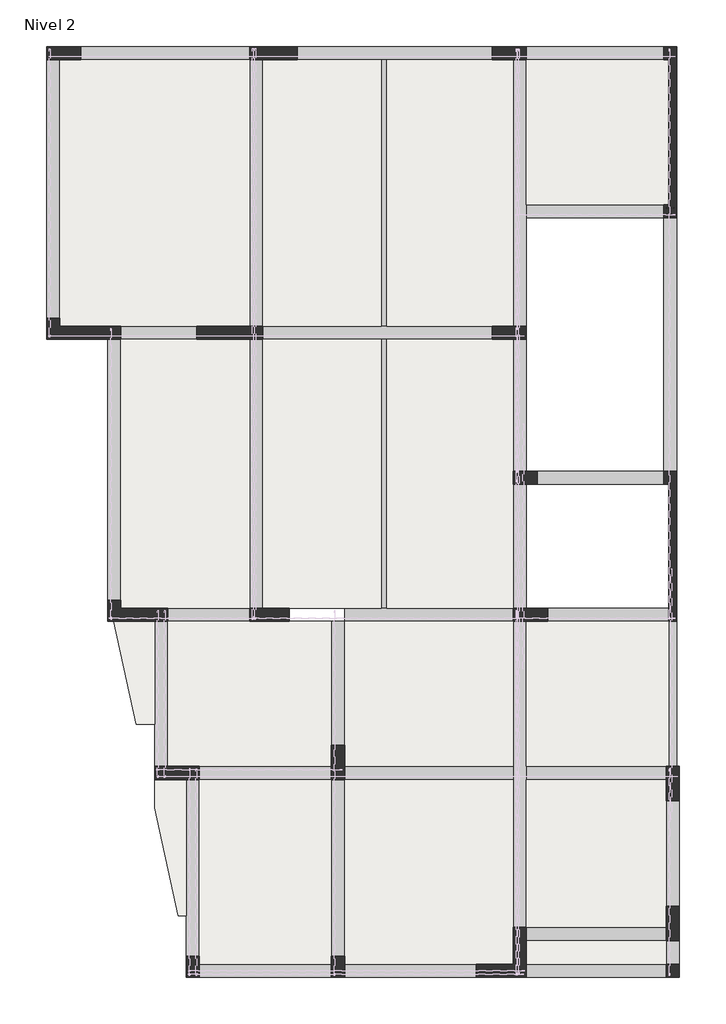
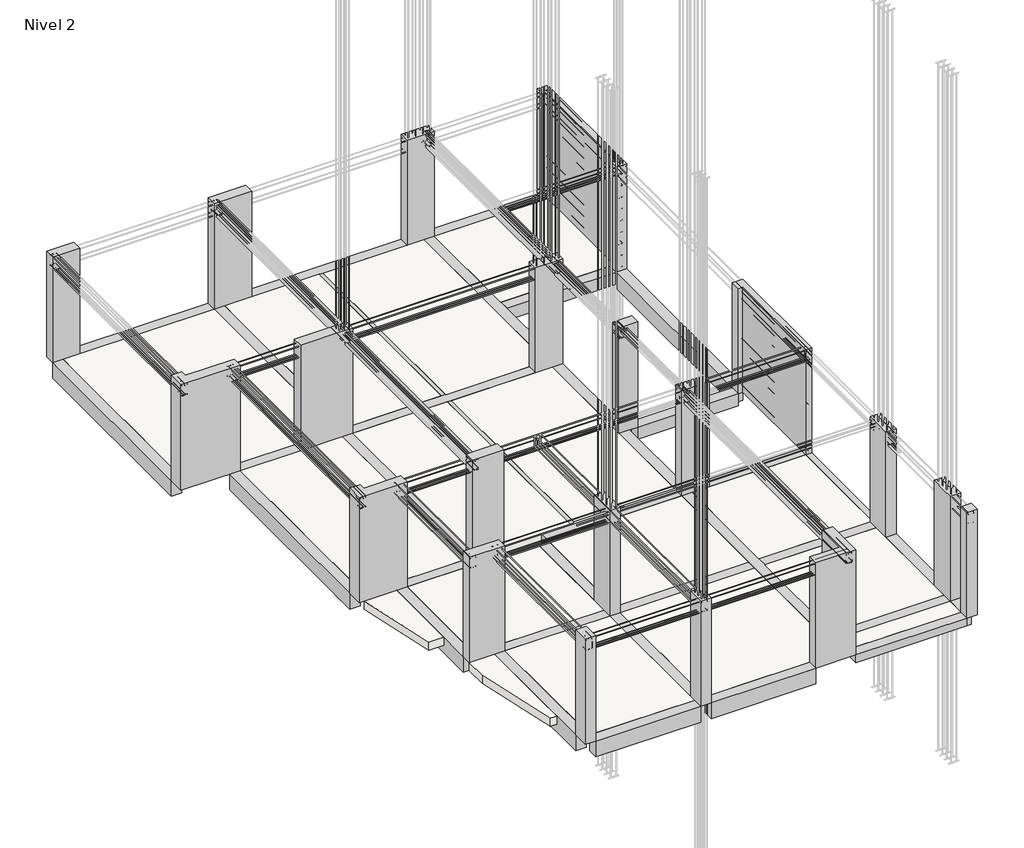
# One storey, part 1 of 4: 35 beams, 20 columns, 16 slabs.
"""IFC4 building model written with IfcOpenShell, lengths in millimetres."""

from ifc_helpers import new_model, si_unit, frame, origin, place, context, project, spatial, polyline, outline, extrude, faceted_brep, transform, mapped, element, save
from components import viga_rectangular_evg_rect_10x20cm_33a10ffb, viga_rectangular_evg_rect_10x20cm_1bd2aa7d, viga_rectangular_evg_rect_15x40_cm_c549a8b6, viga_rectangular_evg_rect_25x20_cm_6cef108b, viga_rectangular_evg_rect_25x20_cm_76eb4939, viga_rectangular_evg_rect_25x20_cm_9c3e1b78, viga_rectangular_evg_rect_25x30cm_620da6b6, viga_rectangular_evg_rect_25x30cm_a66d10a6, viga_rectangular_evg_rect_25x40_cm_2bdd148a, viga_rectangular_evg_rect_25x40_cm_41408228, viga_rectangular_evg_rect_25x40_cm_6a1f8600, viga_rectangular_evg_rect_25x40_cm_fbb3c78d, viga_rectangular_evg_rect_25x40_cm_da4bb42e, viga_rectangular_evg_rect_25x40_cm_3ab7e52c, viga_rectangular_evg_rect_25x40_cm_830f614a, viga_rectangular_evg_rect_25x40_cm_90d5ee12, viga_rectangular_evg_rect_25x40_cm_d11aaed7, viga_rectangular_evg_rect_25x40_cm_ec8e30a6, viga_rectangular_evg_rect_25x40_cm_c621c72f, viga_rectangular_evg_rect_25x40_cm_b76ac871, viga_rectangular_evg_rect_25x40_cm_a2aa706d, viga_rectangular_evg_rect_25x40_cm_42ceb3dc, viga_rectangular_evg_rect_25x40_cm_400539a3, viga_rectangular_evg_rect_25x40_cm_b1d61e0d, viga_rectangular_evg_rect_25x40_cm_961303b6, viga_rectangular_evg_rect_25x40_cm_5bf8f6ca, viga_rectangular_evg_rect_25x40_cm_85cacfee, viga_rectangular_evg_rect_25x40_cm_e96bc27a, viga_rectangular_evg_rect_25x40_cm_8e48b35e, viga_rectangular_evg_rect_25x40_cm_19945e5e, viga_rectangular_evg_rect_25x40_cm_85c841cc, column_7b9fd71a, column_7de82d65, column_a5854c5e, column_dfa84617, columna_estructural_rectangular_eco_rect_25x25_cm_52335a65, columna_estructural_u_eco_u_25x325x25x15_0e073354

model = new_model("IFC4")

# Units and contexts
model_context = context("Model", 3, world=origin())
ifc_project = project(units=[si_unit("LENGTHUNIT", "METRE", prefix="MILLI")], contexts=[model_context])

# Site, building, storey
site = spatial("IfcSite", under=ifc_project)
building = spatial("IfcBuilding", under=site)
storey = spatial("IfcBuildingStorey", under=building, Name="Nivel 2", Elevation=2750.0)

# Beams
placement = place(None, origin())
viga_rectangular_evg_rect_10x20cm_shape = viga_rectangular_evg_rect_10x20cm_33a10ffb(model_context)
element("IfcBeam", 1, ObjectType="Viga Rectangular : EVG_Rect 10x20cm", at=placement, inside=storey, context=model_context, shape_type="MappedRepresentation", body=[
    mapped(viga_rectangular_evg_rect_10x20cm_shape, transform((3750.0, 9550.0, 2750.0), x_axis=(0.0, 1.0, 0.0), y_axis=(-1.0, 0.0, 0.0), z_axis=(0.0, 0.0, 1.0))),
])
viga_rectangular_evg_rect_10x20cm_2_shape = viga_rectangular_evg_rect_10x20cm_1bd2aa7d(model_context)
element("IfcBeam", 2, ObjectType="Viga Rectangular : EVG_Rect 10x20cm", at=placement, inside=storey, context=model_context, shape_type="MappedRepresentation", body=[
    mapped(viga_rectangular_evg_rect_10x20cm_2_shape, transform((3750.0, 14875.0, 2750.0), x_axis=(0.0, 1.0, 0.0), y_axis=(-1.0, 0.0, 0.0), z_axis=(0.0, 0.0, 1.0))),
])
viga_rectangular_evg_rect_15x40_cm_shape = viga_rectangular_evg_rect_15x40_cm_c549a8b6(model_context)
element("IfcBeam", 3, ObjectType="Viga Rectangular : EVG_Rect 15x40 cm", at=placement, inside=storey, context=model_context, shape_type="MappedRepresentation", body=[
    mapped(viga_rectangular_evg_rect_15x40_cm_shape, transform((9225.0, 5375.0, 2750.0), x_axis=(0.0, -1.0, 0.0), y_axis=(1.0, 0.0, 0.0), z_axis=(0.0, 0.0, 1.0))),
])
viga_rectangular_evg_rect_25x20_cm_shape = viga_rectangular_evg_rect_25x20_cm_6cef108b(model_context)
element("IfcBeam", 4, ObjectType="Viga Rectangular : EVG_Rect 25x20 cm", at=placement, inside=storey, context=model_context, shape_type="MappedRepresentation", body=[
    mapped(viga_rectangular_evg_rect_25x20_cm_shape, transform((6325.0, 8175.0, 2750.0), x_axis=(0.0, 1.0, 0.0), y_axis=(-1.0, 0.0, 0.0), z_axis=(0.0, 0.0, 1.0))),
])
viga_rectangular_evg_rect_25x20_cm_2_shape = viga_rectangular_evg_rect_25x20_cm_76eb4939(model_context)
element("IfcBeam", 5, ObjectType="Viga Rectangular : EVG_Rect 25x20 cm", at=placement, inside=storey, context=model_context, shape_type="MappedRepresentation", body=[
    mapped(viga_rectangular_evg_rect_25x20_cm_2_shape, transform((4600.0, 3875.0, 2750.0), x_axis=(1.0, 0.0, 0.0), y_axis=(0.0, 1.0, 0.0), z_axis=(0.0, 0.0, 1.0))),
])
viga_rectangular_evg_rect_25x20_cm_3_shape = viga_rectangular_evg_rect_25x20_cm_9c3e1b78(model_context)
element("IfcBeam", 6, ObjectType="Viga Rectangular : EVG_Rect 25x20 cm", at=placement, inside=storey, context=model_context, shape_type="MappedRepresentation", body=[
    mapped(viga_rectangular_evg_rect_25x20_cm_3_shape, transform((7775.0, 3875.0, 2750.0), x_axis=(1.0, 0.0, 0.0), y_axis=(0.0, 1.0, 0.0), z_axis=(0.0, 0.0, 1.0))),
])
element("IfcBeam", 7, ObjectType="Viga Rectangular : EVG_Rect 25x20 cm", at=placement, inside=storey, context=model_context, shape_type="MappedRepresentation", body=[
    mapped(viga_rectangular_evg_rect_25x20_cm_3_shape, transform((7775.0, 825.0, 2750.0), x_axis=(-1.0, 0.0, 0.0), y_axis=(0.0, -1.0, 0.0), z_axis=(0.0, 0.0, 1.0))),
])
element("IfcBeam", 8, ObjectType="Viga Rectangular : EVG_Rect 25x20 cm", at=placement, inside=storey, context=model_context, shape_type="MappedRepresentation", body=[
    mapped(viga_rectangular_evg_rect_25x20_cm_3_shape, transform((7775.0, 125.0, 2750.0), x_axis=(-1.0, 0.0, 0.0), y_axis=(0.0, -1.0, 0.0), z_axis=(0.0, 0.0, 1.0))),
])
viga_rectangular_evg_rect_25x30cm_shape = viga_rectangular_evg_rect_25x30cm_620da6b6(model_context)
element("IfcBeam", 9, ObjectType="Viga Rectangular : EVG_Rect 25x30cm", at=placement, inside=storey, context=model_context, shape_type="MappedRepresentation", body=[
    mapped(viga_rectangular_evg_rect_25x30cm_shape, transform((7800.0, 9475.0, 2750.0), x_axis=(1.0, 0.0, 0.0), y_axis=(0.0, 1.0, 0.0), z_axis=(0.0, 0.0, 1.0))),
])
viga_rectangular_evg_rect_25x30cm_2_shape = viga_rectangular_evg_rect_25x30cm_a66d10a6(model_context)
element("IfcBeam", 10, ObjectType="Viga Rectangular : EVG_Rect 25x30cm", at=placement, inside=storey, context=model_context, shape_type="MappedRepresentation", body=[
    mapped(viga_rectangular_evg_rect_25x30cm_2_shape, transform((7750.0, 14525.0, 2750.0), x_axis=(-1.0, 0.0, 0.0), y_axis=(0.0, -1.0, 0.0), z_axis=(0.0, 0.0, 1.0))),
])
viga_rectangular_evg_rect_25x40_cm_shape = viga_rectangular_evg_rect_25x40_cm_2bdd148a(model_context)
element("IfcBeam", 11, ObjectType="Viga Rectangular : EVG_Rect 25x40 cm", at=placement, inside=storey, context=model_context, shape_type="MappedRepresentation", body=[
    mapped(viga_rectangular_evg_rect_25x40_cm_shape, transform((6325.0, 3675.0, 2750.0), x_axis=(0.0, 1.0, 0.0), y_axis=(-1.0, 0.0, 0.0), z_axis=(0.0, 0.0, 1.0))),
])
viga_rectangular_evg_rect_25x40_cm_2_shape = viga_rectangular_evg_rect_25x40_cm_41408228(model_context)
element("IfcBeam", 12, ObjectType="Viga Rectangular : EVG_Rect 25x40 cm", at=placement, inside=storey, context=model_context, shape_type="MappedRepresentation", body=[
    mapped(viga_rectangular_evg_rect_25x40_cm_2_shape, transform((3425.0, 12225.0, 2750.0), x_axis=(-1.0, 0.0, 0.0), y_axis=(0.0, -1.0, 0.0), z_axis=(0.0, 0.0, 1.0))),
])
viga_rectangular_evg_rect_25x40_cm_3_shape = viga_rectangular_evg_rect_25x40_cm_6a1f8600(model_context)
element("IfcBeam", 13, ObjectType="Viga Rectangular : EVG_Rect 25x40 cm", at=placement, inside=storey, context=model_context, shape_type="MappedRepresentation", body=[
    mapped(viga_rectangular_evg_rect_25x40_cm_3_shape, transform((-560.0, 12225.0, 2750.0), x_axis=(1.0, 0.0, 0.0), y_axis=(0.0, 1.0, 0.0), z_axis=(0.0, 0.0, 1.0))),
])
viga_rectangular_evg_rect_25x40_cm_4_shape = viga_rectangular_evg_rect_25x40_cm_fbb3c78d(model_context)
element("IfcBeam", 14, ObjectType="Viga Rectangular : EVG_Rect 25x40 cm", at=placement, inside=storey, context=model_context, shape_type="MappedRepresentation", body=[
    mapped(viga_rectangular_evg_rect_25x40_cm_4_shape, transform((-337.5, 17525.0, 2750.0), x_axis=(1.0, 0.0, 0.0), y_axis=(0.0, 1.0, 0.0), z_axis=(0.0, 0.0, 1.0))),
])
viga_rectangular_evg_rect_25x40_cm_5_shape = viga_rectangular_evg_rect_25x40_cm_da4bb42e(model_context)
element("IfcBeam", 15, ObjectType="Viga Rectangular : EVG_Rect 25x40 cm", at=placement, inside=storey, context=model_context, shape_type="MappedRepresentation", body=[
    mapped(viga_rectangular_evg_rect_25x40_cm_5_shape, transform((3887.5, 17525.0, 2750.0), x_axis=(1.0, 0.0, 0.0), y_axis=(0.0, 1.0, 0.0), z_axis=(0.0, 0.0, 1.0))),
])
viga_rectangular_evg_rect_25x40_cm_6_shape = viga_rectangular_evg_rect_25x40_cm_3ab7e52c(model_context)
element("IfcBeam", 16, ObjectType="Viga Rectangular : EVG_Rect 25x40 cm", at=placement, inside=storey, context=model_context, shape_type="MappedRepresentation", body=[
    mapped(viga_rectangular_evg_rect_25x40_cm_6_shape, transform((590.0, 6875.0, 2750.0), x_axis=(1.0, 0.0, 0.0), y_axis=(0.0, 1.0, 0.0), z_axis=(0.0, 0.0, 1.0))),
])
viga_rectangular_evg_rect_25x40_cm_7_shape = viga_rectangular_evg_rect_25x40_cm_830f614a(model_context)
element("IfcBeam", 17, ObjectType="Viga Rectangular : EVG_Rect 25x40 cm", at=placement, inside=storey, context=model_context, shape_type="MappedRepresentation", body=[
    mapped(viga_rectangular_evg_rect_25x40_cm_7_shape, transform((4312.5, 6875.0, 2750.0), x_axis=(-1.0, 0.0, 0.0), y_axis=(0.0, -1.0, 0.0), z_axis=(0.0, 0.0, 1.0))),
])
viga_rectangular_evg_rect_25x40_cm_8_shape = viga_rectangular_evg_rect_25x40_cm_90d5ee12(model_context)
element("IfcBeam", 18, ObjectType="Viga Rectangular : EVG_Rect 25x40 cm", at=placement, inside=storey, context=model_context, shape_type="MappedRepresentation", body=[
    mapped(viga_rectangular_evg_rect_25x40_cm_8_shape, transform((1350.0, 3875.0, 2750.0), x_axis=(1.0, 0.0, 0.0), y_axis=(0.0, 1.0, 0.0), z_axis=(0.0, 0.0, 1.0))),
])
viga_rectangular_evg_rect_25x40_cm_9_shape = viga_rectangular_evg_rect_25x40_cm_d11aaed7(model_context)
element("IfcBeam", 19, ObjectType="Viga Rectangular : EVG_Rect 25x40 cm", at=placement, inside=storey, context=model_context, shape_type="MappedRepresentation", body=[
    mapped(viga_rectangular_evg_rect_25x40_cm_9_shape, transform((1500.0, 125.0, 2750.0), x_axis=(-1.0, 0.0, 0.0), y_axis=(0.0, -1.0, 0.0), z_axis=(0.0, 0.0, 1.0))),
])
element("IfcBeam", 20, ObjectType="Viga Rectangular : EVG_Rect 25x40 cm", at=placement, inside=storey, context=model_context, shape_type="MappedRepresentation", body=[
    mapped(viga_rectangular_evg_rect_25x40_cm_9_shape, transform((6325.0, 10850.0, 2750.0), x_axis=(0.0, 1.0, 0.0), y_axis=(-1.0, 0.0, 0.0), z_axis=(0.0, 0.0, 1.0))),
])
viga_rectangular_evg_rect_25x40_cm_10_shape = viga_rectangular_evg_rect_25x40_cm_ec8e30a6(model_context)
element("IfcBeam", 21, ObjectType="Viga Rectangular : EVG_Rect 25x40 cm", at=placement, inside=storey, context=model_context, shape_type="MappedRepresentation", body=[
    mapped(viga_rectangular_evg_rect_25x40_cm_10_shape, transform((4600.0, 125.0, 2750.0), x_axis=(1.0, 0.0, 0.0), y_axis=(0.0, 1.0, 0.0), z_axis=(0.0, 0.0, 1.0))),
])
viga_rectangular_evg_rect_25x40_cm_11_shape = viga_rectangular_evg_rect_25x40_cm_c621c72f(model_context)
element("IfcBeam", 22, ObjectType="Viga Rectangular : EVG_Rect 25x40 cm", at=placement, inside=storey, context=model_context, shape_type="MappedRepresentation", body=[
    mapped(viga_rectangular_evg_rect_25x40_cm_11_shape, transform((125.0, 2037.5, 2750.0), x_axis=(0.0, 1.0, 0.0), y_axis=(-1.0, 0.0, 0.0), z_axis=(0.0, 0.0, 1.0))),
])
viga_rectangular_evg_rect_25x40_cm_12_shape = viga_rectangular_evg_rect_25x40_cm_b76ac871(model_context)
element("IfcBeam", 23, ObjectType="Viga Rectangular : EVG_Rect 25x40 cm", at=placement, inside=storey, context=model_context, shape_type="MappedRepresentation", body=[
    mapped(viga_rectangular_evg_rect_25x40_cm_12_shape, transform((2875.0, 2137.5, 2750.0), x_axis=(0.0, 1.0, 0.0), y_axis=(-1.0, 0.0, 0.0), z_axis=(0.0, 0.0, 1.0))),
])
viga_rectangular_evg_rect_25x40_cm_13_shape = viga_rectangular_evg_rect_25x40_cm_a2aa706d(model_context)
element("IfcBeam", 24, ObjectType="Viga Rectangular : EVG_Rect 25x40 cm", at=placement, inside=storey, context=model_context, shape_type="MappedRepresentation", body=[
    mapped(viga_rectangular_evg_rect_25x40_cm_13_shape, transform((2875.0, 5475.0, 2750.0), x_axis=(0.0, 1.0, 0.0), y_axis=(-1.0, 0.0, 0.0), z_axis=(0.0, 0.0, 1.0))),
])
viga_rectangular_evg_rect_25x40_cm_14_shape = viga_rectangular_evg_rect_25x40_cm_42ceb3dc(model_context)
element("IfcBeam", 25, ObjectType="Viga Rectangular : EVG_Rect 25x40 cm", at=placement, inside=storey, context=model_context, shape_type="MappedRepresentation", body=[
    mapped(viga_rectangular_evg_rect_25x40_cm_14_shape, transform((-475.0, 5375.0, 2750.0), x_axis=(0.0, 1.0, 0.0), y_axis=(-1.0, 0.0, 0.0), z_axis=(0.0, 0.0, 1.0))),
])
viga_rectangular_evg_rect_25x40_cm_15_shape = viga_rectangular_evg_rect_25x40_cm_400539a3(model_context)
element("IfcBeam", 26, ObjectType="Viga Rectangular : EVG_Rect 25x40 cm", at=placement, inside=storey, context=model_context, shape_type="MappedRepresentation", body=[
    mapped(viga_rectangular_evg_rect_25x40_cm_15_shape, transform((9225.0, 575.0, 2750.0), x_axis=(0.0, 1.0, 0.0), y_axis=(-1.0, 0.0, 0.0), z_axis=(0.0, 0.0, 1.0))),
])
viga_rectangular_evg_rect_25x40_cm_16_shape = viga_rectangular_evg_rect_25x40_cm_b1d61e0d(model_context)
element("IfcBeam", 27, ObjectType="Viga Rectangular : EVG_Rect 25x40 cm", at=placement, inside=storey, context=model_context, shape_type="MappedRepresentation", body=[
    mapped(viga_rectangular_evg_rect_25x40_cm_16_shape, transform((9225.0, 2350.0, 2750.0), x_axis=(0.0, 1.0, 0.0), y_axis=(-1.0, 0.0, 0.0), z_axis=(0.0, 0.0, 1.0))),
])
viga_rectangular_evg_rect_25x40_cm_17_shape = viga_rectangular_evg_rect_25x40_cm_961303b6(model_context)
element("IfcBeam", 28, ObjectType="Viga Rectangular : EVG_Rect 25x40 cm", at=placement, inside=storey, context=model_context, shape_type="MappedRepresentation", body=[
    mapped(viga_rectangular_evg_rect_25x40_cm_17_shape, transform((7875.0, 6875.0, 2750.0), x_axis=(1.0, 0.0, 0.0), y_axis=(0.0, 1.0, 0.0), z_axis=(0.0, 0.0, 1.0))),
])
viga_rectangular_evg_rect_25x40_cm_18_shape = viga_rectangular_evg_rect_25x40_cm_5bf8f6ca(model_context)
element("IfcBeam", 29, ObjectType="Viga Rectangular : EVG_Rect 25x40 cm", at=placement, inside=storey, context=model_context, shape_type="MappedRepresentation", body=[
    mapped(viga_rectangular_evg_rect_25x40_cm_18_shape, transform((-1365.0, 9587.5, 2750.0), x_axis=(0.0, 1.0, 0.0), y_axis=(-1.0, 0.0, 0.0), z_axis=(0.0, 0.0, 1.0))),
])
viga_rectangular_evg_rect_25x40_cm_19_shape = viga_rectangular_evg_rect_25x40_cm_85cacfee(model_context)
element("IfcBeam", 30, ObjectType="Viga Rectangular : EVG_Rect 25x40 cm", at=placement, inside=storey, context=model_context, shape_type="MappedRepresentation", body=[
    mapped(viga_rectangular_evg_rect_25x40_cm_19_shape, transform((1325.0, 9550.0, 2750.0), x_axis=(0.0, 1.0, 0.0), y_axis=(-1.0, 0.0, 0.0), z_axis=(0.0, 0.0, 1.0))),
])
viga_rectangular_evg_rect_25x40_cm_20_shape = viga_rectangular_evg_rect_25x40_cm_e96bc27a(model_context)
element("IfcBeam", 31, ObjectType="Viga Rectangular : EVG_Rect 25x40 cm", at=placement, inside=storey, context=model_context, shape_type="MappedRepresentation", body=[
    mapped(viga_rectangular_evg_rect_25x40_cm_20_shape, transform((9175.0, 11985.0, 2750.0), x_axis=(0.0, 1.0, 0.0), y_axis=(-1.0, 0.0, 0.0), z_axis=(0.0, 0.0, 1.0))),
])
viga_rectangular_evg_rect_25x40_cm_21_shape = viga_rectangular_evg_rect_25x40_cm_8e48b35e(model_context)
element("IfcBeam", 32, ObjectType="Viga Rectangular : EVG_Rect 25x40 cm", at=placement, inside=storey, context=model_context, shape_type="MappedRepresentation", body=[
    mapped(viga_rectangular_evg_rect_25x40_cm_21_shape, transform((6325.0, 14875.0, 2750.0), x_axis=(0.0, 1.0, 0.0), y_axis=(-1.0, 0.0, 0.0), z_axis=(0.0, 0.0, 1.0))),
])
element("IfcBeam", 33, ObjectType="Viga Rectangular : EVG_Rect 25x40 cm", at=placement, inside=storey, context=model_context, shape_type="MappedRepresentation", body=[
    mapped(viga_rectangular_evg_rect_25x40_cm_21_shape, transform((1325.0, 14875.0, 2750.0), x_axis=(0.0, 1.0, 0.0), y_axis=(-1.0, 0.0, 0.0), z_axis=(0.0, 0.0, 1.0))),
])
viga_rectangular_evg_rect_25x40_cm_22_shape = viga_rectangular_evg_rect_25x40_cm_19945e5e(model_context)
element("IfcBeam", 34, ObjectType="Viga Rectangular : EVG_Rect 25x40 cm", at=placement, inside=storey, context=model_context, shape_type="MappedRepresentation", body=[
    mapped(viga_rectangular_evg_rect_25x40_cm_22_shape, transform((-2525.0, 14912.5, 2750.0), x_axis=(0.0, 1.0, 0.0), y_axis=(-1.0, 0.0, 0.0), z_axis=(0.0, 0.0, 1.0))),
])
viga_rectangular_evg_rect_25x40_cm_23_shape = viga_rectangular_evg_rect_25x40_cm_85c841cc(model_context)
element("IfcBeam", 35, ObjectType="Viga Rectangular : EVG_Rect 25x40 cm", at=placement, inside=storey, context=model_context, shape_type="MappedRepresentation", body=[
    mapped(viga_rectangular_evg_rect_25x40_cm_23_shape, transform((7675.0, 17525.0, 2750.0), x_axis=(1.0, 0.0, 0.0), y_axis=(0.0, 1.0, 0.0), z_axis=(0.0, 0.0, 1.0))),
])

# Columns
column_shape = column_7b9fd71a(model_context)
element("IfcColumn", 36, ObjectType="Columna Estructural Ele : ECO_Ele 40x141x25", at=placement, inside=storey, context=model_context, shape_type="MappedRepresentation", body=[
    mapped(column_shape, transform((-2525.0, 12225.0, 0.0), x_axis=(1.0, 0.0, 0.0), y_axis=(0.0, 1.0, 0.0), z_axis=(0.0, 0.0, 1.0))),
])
column_2_shape = column_7de82d65(model_context)
element("IfcColumn", 37, ObjectType="Columna Estructural Ele : ECO_Ele 40x114x25", at=placement, inside=storey, context=model_context, shape_type="MappedRepresentation", body=[
    mapped(column_2_shape, transform((-1365.0, 6875.0, 0.0), x_axis=(1.0, 0.0, 0.0), y_axis=(0.0, 1.0, 0.0), z_axis=(0.0, 0.0, 1.0))),
])
column_3_shape = column_a5854c5e(model_context)
element("IfcColumn", 38, ObjectType="Columna Estructural Ele : ECO_Ele 25x285x25", at=placement, inside=storey, context=model_context, shape_type="MappedRepresentation", body=[
    mapped(column_3_shape, transform((9225.0, 9475.0, 0.0), x_axis=(0.0, -1.0, 0.0), y_axis=(1.0, 0.0, 0.0), z_axis=(0.0, 0.0, 1.0))),
])
column_4_shape = column_dfa84617(model_context)
element("IfcColumn", 39, ObjectType="Columna Estructural Ele : ECO_Ele 95x95x25", at=placement, inside=storey, context=model_context, shape_type="MappedRepresentation", body=[
    mapped(column_4_shape, transform((6325.0, 125.0, 0.0), x_axis=(0.0, 1.0, 0.0), y_axis=(-1.0, 0.0, 0.0), z_axis=(0.0, 0.0, 1.0))),
])
element("IfcColumn", 40, ObjectType="Columna Estructural Rectangular : ECO_Rect. 25x125 cm", at=placement, inside=storey, context=model_context, shape_type="Brep", body=[
    faceted_brep([(200.0, 12350.0, 2750.0), (1450.0, 12350.0, 2750.0), (1450.0, 12100.0, 2750.0), (200.0, 12100.0, 2750.0), (200.0, 12350.0, 5400.0), (1200.0, 12350.0, 5400.0), (1450.0, 12350.0, 5400.0), (1450.0, 12100.0, 5400.0), (1200.0, 12100.0, 5400.0), (200.0, 12100.0, 5400.0)], [[[0, 1, 2, 3]], [[4, 5, 6, 1, 0]], [[6, 7, 2, 1]], [[7, 8, 9, 3, 2]], [[9, 4, 0, 3]], [[4, 9, 8, 7, 6, 5]]]),
])
columna_estructural_rectangular_eco_rect_25x25_cm_shape = columna_estructural_rectangular_eco_rect_25x25_cm_52335a65(model_context)
element("IfcColumn", 41, ObjectType="Columna Estructural Rectangular : ECO_Rect. 25x25 cm", at=placement, inside=storey, context=model_context, shape_type="MappedRepresentation", body=[
    mapped(columna_estructural_rectangular_eco_rect_25x25_cm_shape, transform((9225.0, 125.0, 0.0), x_axis=(-1.0, 0.0, 0.0), y_axis=(0.0, -1.0, 0.0), z_axis=(0.0, 0.0, 1.0))),
])
element("IfcColumn", 42, ObjectType="Columna Estructural Rectangular : ECO_Rect. 25x40 cm", at=placement, inside=storey, context=model_context, shape_type="Brep", body=[
    faceted_brep([(0.0, 0.0, 2750.0), (0.0, 400.0, 2750.0), (250.0, 400.0, 2750.0), (250.0, 0.0, 2750.0), (0.0, 0.0, 5400.0), (0.0, 400.0, 5400.0), (250.0, 400.0, 5400.0), (250.0, 250.0, 5400.0), (250.0, 0.0, 5400.0)], [[[0, 1, 2, 3]], [[4, 5, 1, 0]], [[5, 6, 2, 1]], [[6, 7, 8, 3, 2]], [[8, 4, 0, 3]], [[4, 8, 7, 6, 5]]]),
])
element("IfcColumn", 43, ObjectType="Columna Estructural Rectangular : ECO_Rect. 25x40 cm", at=placement, inside=storey, context=model_context, shape_type="Brep", body=[
    faceted_brep([(2750.0, 0.0, 2750.0), (2750.0, 400.0, 2750.0), (3000.0, 400.0, 2750.0), (3000.0, 0.0, 2750.0), (2750.0, 0.0, 5400.0), (2750.0, 250.0, 5400.0), (2750.0, 400.0, 5400.0), (3000.0, 400.0, 5400.0), (3000.0, 250.0, 5400.0), (3000.0, 0.0, 5400.0)], [[[0, 1, 2, 3]], [[4, 5, 6, 1, 0]], [[6, 7, 2, 1]], [[7, 8, 9, 3, 2]], [[9, 4, 0, 3]], [[4, 9, 8, 7, 6, 5]]]),
])
element("IfcColumn", 44, ObjectType="Columna Estructural Rectangular : ECO_Rect. 25x45 cm", at=placement, inside=storey, context=model_context, shape_type="SweptSolid", body=[
    extrude(outline(polyline([(6200.0, 9600.0), (6650.0, 9600.0), (6650.0, 9350.0), (6200.0, 9350.0), (6200.0, 9600.0)])), frame((0.0, 0.0, 2750.0), z_axis=(0.0, 0.0, 1.0), x_axis=(1.0, 0.0, 0.0)), (0.0, 0.0, 1.0), 2650.0),
])
element("IfcColumn", 45, ObjectType="Columna Estructural Rectangular : ECO_Rect. 25x65 cm", at=placement, inside=storey, context=model_context, shape_type="Brep", body=[
    faceted_brep([(-2650.0, 17650.0, 2750.0), (-2000.0, 17650.0, 2750.0), (-2000.0, 17400.0, 2750.0), (-2650.0, 17400.0, 2750.0), (-2650.0, 17650.0, 5400.0), (-2000.0, 17650.0, 5400.0), (-2000.0, 17400.0, 5400.0), (-2400.0, 17400.0, 5400.0), (-2650.0, 17400.0, 5400.0)], [[[0, 1, 2, 3]], [[4, 5, 1, 0]], [[5, 6, 2, 1]], [[6, 7, 8, 3, 2]], [[8, 4, 0, 3]], [[4, 8, 7, 6, 5]]]),
])
element("IfcColumn", 46, ObjectType="Columna Estructural Rectangular : ECO_Rect. 25x65 cm", at=placement, inside=storey, context=model_context, shape_type="Brep", body=[
    faceted_brep([(5800.0, 17650.0, 2750.0), (6450.0, 17650.0, 2750.0), (6450.0, 17400.0, 2750.0), (5800.0, 17400.0, 2750.0), (5800.0, 17650.0, 5400.0), (6450.0, 17650.0, 5400.0), (6450.0, 17400.0, 5400.0), (6200.0, 17400.0, 5400.0), (5800.0, 17400.0, 5400.0)], [[[0, 1, 2, 3]], [[4, 5, 1, 0]], [[5, 6, 2, 1]], [[6, 7, 8, 3, 2]], [[8, 4, 0, 3]], [[4, 8, 7, 6, 5]]]),
])
element("IfcColumn", 47, ObjectType="Columna Estructural Rectangular : ECO_Rect. 25x65 cm", at=placement, inside=storey, context=model_context, shape_type="Brep", body=[
    faceted_brep([(5800.0, 12350.0, 2750.0), (6450.0, 12350.0, 2750.0), (6450.0, 12100.0, 2750.0), (5800.0, 12100.0, 2750.0), (5800.0, 12350.0, 5400.0), (6200.0, 12350.0, 5400.0), (6450.0, 12350.0, 5400.0), (6450.0, 12100.0, 5400.0), (6200.0, 12100.0, 5400.0), (5800.0, 12100.0, 5400.0)], [[[0, 1, 2, 3]], [[4, 5, 6, 1, 0]], [[6, 7, 2, 1]], [[7, 8, 9, 3, 2]], [[9, 4, 0, 3]], [[4, 9, 8, 7, 6, 5]]]),
])
element("IfcColumn", 48, ObjectType="Columna Estructural Rectangular : ECO_Rect. 25x65 cm", at=placement, inside=storey, context=model_context, shape_type="Brep", body=[
    faceted_brep([(6200.0, 7000.0, 2750.0), (6850.0, 7000.0, 2750.0), (6850.0, 6750.0, 2750.0), (6200.0, 6750.0, 2750.0), (6200.0, 7000.0, 5400.0), (6850.0, 7000.0, 5400.0), (6850.0, 6750.0, 5400.0), (6450.0, 6750.0, 5400.0), (6200.0, 6750.0, 5400.0)], [[[0, 1, 2, 3]], [[4, 5, 1, 0]], [[5, 6, 2, 1]], [[6, 7, 8, 3, 2]], [[8, 4, 0, 3]], [[4, 8, 7, 6, 5]]]),
])
element("IfcColumn", 49, ObjectType="Columna Estructural Rectangular : ECO_Rect. 25x65 cm", at=placement, inside=storey, context=model_context, shape_type="Brep", body=[
    faceted_brep([(2750.0, 3750.0, 2750.0), (2750.0, 4400.0, 2750.0), (3000.0, 4400.0, 2750.0), (3000.0, 3750.0, 2750.0), (2750.0, 3750.0, 5400.0), (2750.0, 4000.0, 5400.0), (2750.0, 4400.0, 5400.0), (3000.0, 4400.0, 5400.0), (3000.0, 4000.0, 5400.0), (3000.0, 3750.0, 5400.0)], [[[0, 1, 2, 3]], [[4, 5, 6, 1, 0]], [[6, 7, 2, 1]], [[7, 8, 9, 3, 2]], [[9, 4, 0, 3]], [[4, 9, 8, 7, 6, 5]]]),
])
element("IfcColumn", 50, ObjectType="Columna Estructural Rectangular : ECO_Rect. 25x65 cm", at=placement, inside=storey, context=model_context, shape_type="Brep", body=[
    faceted_brep([(9100.0, 3350.0, 2750.0), (9100.0, 4000.0, 2750.0), (9350.0, 4000.0, 2750.0), (9350.0, 3350.0, 2750.0), (9100.0, 3350.0, 5400.0), (9100.0, 3750.0, 5400.0), (9100.0, 4000.0, 5400.0), (9150.0, 4000.0, 5400.0), (9350.0, 4000.0, 5400.0), (9350.0, 3350.0, 5400.0)], [[[0, 1, 2, 3]], [[4, 5, 6, 1, 0]], [[6, 7, 8, 2, 1]], [[8, 9, 3, 2]], [[9, 4, 0, 3]], [[4, 9, 8, 7, 6, 5]]]),
])
element("IfcColumn", 51, ObjectType="Columna Estructural Rectangular : ECO_Rect. 25x65 cm", at=placement, inside=storey, context=model_context, shape_type="Brep", body=[
    faceted_brep([(9100.0, 700.0, 2750.0), (9100.0, 1350.0, 2750.0), (9350.0, 1350.0, 2750.0), (9350.0, 700.0, 2750.0), (9100.0, 700.0, 5400.0), (9100.0, 950.0, 5400.0), (9100.0, 1350.0, 5400.0), (9350.0, 1350.0, 5400.0), (9350.0, 700.0, 5400.0)], [[[0, 1, 2, 3]], [[4, 5, 6, 1, 0]], [[6, 7, 2, 1]], [[7, 8, 3, 2]], [[8, 4, 0, 3]], [[4, 8, 7, 6, 5]]]),
])
element("IfcColumn", 52, ObjectType="Columna Estructural Rectangular : ECO_Rect. 25x75 cm", at=placement, inside=storey, context=model_context, shape_type="Brep", body=[
    faceted_brep([(1200.0, 7000.0, 2750.0), (1950.0, 7000.0, 2750.0), (1950.0, 6750.0, 2750.0), (1200.0, 6750.0, 2750.0), (1200.0, 7000.0, 5400.0), (1450.0, 7000.0, 5400.0), (1950.0, 7000.0, 5400.0), (1950.0, 6750.0, 5400.0), (1200.0, 6750.0, 5400.0)], [[[0, 1, 2, 3]], [[4, 5, 6, 1, 0]], [[6, 7, 2, 1]], [[7, 8, 3, 2]], [[8, 4, 0, 3]], [[4, 8, 7, 6, 5]]]),
])
element("IfcColumn", 53, ObjectType="Columna Estructural Rectangular : ECO_Rect. 25x85 cm", at=placement, inside=storey, context=model_context, shape_type="Brep", body=[
    faceted_brep([(-600.0, 4000.0, 2750.0), (250.0, 4000.0, 2750.0), (250.0, 3750.0, 2750.0), (-600.0, 3750.0, 2750.0), (-600.0, 4000.0, 5400.0), (-350.0, 4000.0, 5400.0), (250.0, 4000.0, 5400.0), (250.0, 3750.0, 5400.0), (0.0, 3750.0, 5400.0), (-600.0, 3750.0, 5400.0), (-600.0, 3750.0, 5200.0)], [[[0, 1, 2, 3]], [[4, 5, 6, 1, 0]], [[6, 7, 2, 1]], [[7, 8, 9, 10, 3, 2]], [[9, 4, 0, 3, 10]], [[4, 9, 8, 7, 6, 5]]]),
])
element("IfcColumn", 54, ObjectType="Columna Estructural Rectangular : ECO_Rect. 25x90 cm", at=placement, inside=storey, context=model_context, shape_type="Brep", body=[
    faceted_brep([(1200.0, 17650.0, 2750.0), (2100.0, 17650.0, 2750.0), (2100.0, 17400.0, 2750.0), (1200.0, 17400.0, 2750.0), (1200.0, 17650.0, 5400.0), (2100.0, 17650.0, 5400.0), (2100.0, 17400.0, 5400.0), (1450.0, 17400.0, 5400.0), (1200.0, 17400.0, 5400.0)], [[[0, 1, 2, 3]], [[4, 5, 1, 0]], [[5, 6, 2, 1]], [[6, 7, 8, 3, 2]], [[8, 4, 0, 3]], [[4, 8, 7, 6, 5]]]),
])
columna_estructural_u_eco_u_25x325x25x15_shape = columna_estructural_u_eco_u_25x325x25x15_0e073354(model_context)
element("IfcColumn", 55, ObjectType="Columna Estructural U : ECO_U 25x325x25x15", at=placement, inside=storey, context=model_context, shape_type="MappedRepresentation", body=[
    mapped(columna_estructural_u_eco_u_25x325x25x15_shape, transform((9225.0, 16025.0, 0.0), x_axis=(0.0, 1.0, 0.0), y_axis=(-1.0, 0.0, 0.0), z_axis=(0.0, 0.0, 1.0))),
])

# Slabs
element("IfcSlab", 56, ObjectType="ELA_Losa Aligerada e=20 cm", at=placement, inside=storey, context=model_context, shape_type="Brep", body=[
    faceted_brep([(1200.0, 17400.0, 2550.0), (1200.0, 12350.0, 2550.0), (-2400.0, 12350.0, 2550.0), (-2400.0, 17400.0, 2550.0), (1200.0, 17400.0, 2750.0), (-2000.0, 17400.0, 2750.0), (-2400.0, 17400.0, 2750.0), (-2400.0, 12350.0, 2750.0), (200.0, 12350.0, 2750.0), (1200.0, 12350.0, 2750.0)], [[[0, 1, 2, 3]], [[4, 5, 6, 7, 8, 9]], [[1, 0, 4, 9]], [[2, 1, 9, 8, 7]], [[3, 2, 7, 6]], [[0, 3, 6, 5, 4]]]),
])
element("IfcSlab", 57, ObjectType="ELA_Losa Aligerada e=20 cm", at=placement, inside=storey, context=model_context, shape_type="Brep", body=[
    faceted_brep([(3700.0, 17400.0, 2550.0), (3700.0, 12350.0, 2550.0), (1450.0, 12350.0, 2550.0), (1450.0, 17400.0, 2550.0), (3700.0, 17400.0, 2750.0), (2100.0, 17400.0, 2750.0), (1450.0, 17400.0, 2750.0), (1450.0, 12350.0, 2750.0), (3700.0, 12350.0, 2750.0)], [[[0, 1, 2, 3]], [[4, 5, 6, 7, 8]], [[1, 0, 4, 8]], [[2, 1, 8, 7]], [[3, 2, 7, 6]], [[0, 3, 6, 5, 4]]]),
])
element("IfcSlab", 58, ObjectType="ELA_Losa Aligerada e=20 cm", at=placement, inside=storey, context=model_context, shape_type="Brep", body=[
    faceted_brep([(6200.0, 17400.0, 2550.0), (6200.0, 12350.0, 2550.0), (3800.0, 12350.0, 2550.0), (3800.0, 17400.0, 2550.0), (6200.0, 17400.0, 2750.0), (5800.0, 17400.0, 2750.0), (3800.0, 17400.0, 2750.0), (3800.0, 12350.0, 2750.0), (5800.0, 12350.0, 2750.0), (6200.0, 12350.0, 2750.0)], [[[0, 1, 2, 3]], [[4, 5, 6, 7, 8, 9]], [[1, 0, 4, 9]], [[2, 1, 9, 8, 7]], [[3, 2, 7, 6]], [[0, 3, 6, 5, 4]]]),
])
element("IfcSlab", 59, ObjectType="ELA_Losa Aligerada e=20 cm", at=placement, inside=storey, context=model_context, shape_type="SweptSolid", body=[
    extrude(outline(polyline([(9150.0, 17400.0), (9150.0, 14650.0), (6450.0, 14650.0), (6450.0, 17400.0), (9150.0, 17400.0)])), frame((0.0, 0.0, 2550.0), z_axis=(0.0, 0.0, 1.0), x_axis=(1.0, 0.0, 0.0)), (0.0, 0.0, 1.0), 200.0),
])
element("IfcSlab", 60, ObjectType="ELA_Losa Aligerada e=20 cm", at=placement, inside=storey, context=model_context, shape_type="Brep", body=[
    faceted_brep([(1200.0, 12100.0, 2550.0), (1200.0, 7000.0, 2550.0), (-1240.0, 7000.0, 2550.0), (-1240.0, 12100.0, 2550.0), (1200.0, 12100.0, 2750.0), (200.0, 12100.0, 2750.0), (-1240.0, 12100.0, 2750.0), (-1240.0, 7000.0, 2750.0), (1200.0, 7000.0, 2750.0)], [[[0, 1, 2, 3]], [[4, 5, 6, 7, 8]], [[1, 0, 4, 8]], [[2, 1, 8, 7]], [[3, 2, 7, 6]], [[0, 3, 6, 5, 4]]]),
])
element("IfcSlab", 61, ObjectType="ELA_Losa Aligerada e=20 cm", at=placement, inside=storey, context=model_context, shape_type="Brep", body=[
    faceted_brep([(3700.0, 12100.0, 2550.0), (3700.0, 7000.0, 2550.0), (1450.0, 7000.0, 2550.0), (1450.0, 12100.0, 2550.0), (3700.0, 12100.0, 2750.0), (1450.0, 12100.0, 2750.0), (1450.0, 7000.0, 2750.0), (3000.0, 7000.0, 2750.0), (3700.0, 7000.0, 2750.0)], [[[0, 1, 2, 3]], [[4, 5, 6, 7, 8]], [[1, 0, 4, 8]], [[2, 1, 8, 7, 6]], [[3, 2, 6, 5]], [[0, 3, 5, 4]]]),
])
element("IfcSlab", 62, ObjectType="ELA_Losa Aligerada e=20 cm", at=placement, inside=storey, context=model_context, shape_type="Brep", body=[
    faceted_brep([(6200.0, 12100.0, 2550.0), (6200.0, 7000.0, 2550.0), (3800.0, 7000.0, 2550.0), (3800.0, 12100.0, 2550.0), (6200.0, 12100.0, 2750.0), (5800.0, 12100.0, 2750.0), (3800.0, 12100.0, 2750.0), (3800.0, 7000.0, 2750.0), (6200.0, 7000.0, 2750.0), (6200.0, 9350.0, 2750.0), (6200.0, 9600.0, 2750.0)], [[[0, 1, 2, 3]], [[4, 5, 6, 7, 8, 9, 10]], [[1, 0, 4, 10, 9, 8]], [[2, 1, 8, 7]], [[3, 2, 7, 6]], [[0, 3, 6, 5, 4]]]),
])
element("IfcSlab", 63, ObjectType="ELA_Losa Aligerada e=20 cm", at=placement, inside=storey, context=model_context, shape_type="Brep", body=[
    faceted_brep([(2750.0, 6750.0, 2550.0), (2750.0, 4000.0, 2550.0), (-350.0, 4000.0, 2550.0), (-350.0, 6750.0, 2550.0), (2750.0, 6750.0, 2750.0), (1200.0, 6750.0, 2750.0), (-350.0, 6750.0, 2750.0), (-350.0, 4000.0, 2750.0), (250.0, 4000.0, 2750.0), (2750.0, 4000.0, 2750.0), (2750.0, 4400.0, 2750.0)], [[[0, 1, 2, 3]], [[4, 5, 6, 7, 8, 9, 10]], [[1, 0, 4, 10, 9]], [[2, 1, 9, 8, 7]], [[3, 2, 7, 6]], [[0, 3, 6, 5, 4]]]),
])
element("IfcSlab", 64, ObjectType="ELA_Losa Aligerada e=20 cm", at=placement, inside=storey, context=model_context, shape_type="Brep", body=[
    faceted_brep([(6200.0, 6750.0, 2550.0), (6200.0, 4000.0, 2550.0), (3000.0, 4000.0, 2550.0), (3000.0, 6750.0, 2550.0), (6200.0, 6750.0, 2750.0), (3000.0, 6750.0, 2750.0), (3000.0, 4400.0, 2750.0), (3000.0, 4000.0, 2750.0), (6200.0, 4000.0, 2750.0)], [[[0, 1, 2, 3]], [[4, 5, 6, 7, 8]], [[1, 0, 4, 8]], [[2, 1, 8, 7]], [[3, 2, 7, 6, 5]], [[0, 3, 5, 4]]]),
])
element("IfcSlab", 65, ObjectType="ELA_Losa Aligerada e=20 cm", at=placement, inside=storey, context=model_context, shape_type="Brep", body=[
    faceted_brep([(9150.0, 6750.0, 2550.0), (9150.0, 4000.0, 2550.0), (6450.0, 4000.0, 2550.0), (6450.0, 6750.0, 2550.0), (9150.0, 6750.0, 2750.0), (6850.0, 6750.0, 2750.0), (6450.0, 6750.0, 2750.0), (6450.0, 4000.0, 2750.0), (9100.0, 4000.0, 2750.0), (9150.0, 4000.0, 2750.0)], [[[0, 1, 2, 3]], [[4, 5, 6, 7, 8, 9]], [[1, 0, 4, 9]], [[2, 1, 9, 8, 7]], [[3, 2, 7, 6]], [[0, 3, 6, 5, 4]]]),
])
element("IfcSlab", 66, ObjectType="ELA_Losa Aligerada e=20 cm", at=placement, inside=storey, context=model_context, shape_type="Brep", body=[
    faceted_brep([(2750.0, 3750.0, 2550.0), (2750.0, 250.0, 2550.0), (250.0, 250.0, 2550.0), (250.0, 3750.0, 2550.0), (2750.0, 3750.0, 2750.0), (250.0, 3750.0, 2750.0), (250.0, 400.0, 2750.0), (250.0, 250.0, 2750.0), (2750.0, 250.0, 2750.0), (2750.0, 400.0, 2750.0)], [[[0, 1, 2, 3]], [[4, 5, 6, 7, 8, 9]], [[1, 0, 4, 9, 8]], [[2, 1, 8, 7]], [[3, 2, 7, 6, 5]], [[0, 3, 5, 4]]]),
])
element("IfcSlab", 67, ObjectType="ELA_Losa Aligerada e=20 cm", at=placement, inside=storey, context=model_context, shape_type="Brep", body=[
    faceted_brep([(6200.0, 3750.0, 2550.0), (6200.0, 250.0, 2550.0), (3000.0, 250.0, 2550.0), (3000.0, 3750.0, 2550.0), (6200.0, 3750.0, 2750.0), (3000.0, 3750.0, 2750.0), (3000.0, 400.0, 2750.0), (3000.0, 250.0, 2750.0), (6200.0, 250.0, 2750.0)], [[[0, 1, 2, 3]], [[4, 5, 6, 7, 8]], [[1, 0, 4, 8]], [[2, 1, 8, 7]], [[3, 2, 7, 6, 5]], [[0, 3, 5, 4]]]),
])
element("IfcSlab", 68, ObjectType="ELA_Losa Aligerada e=20 cm", at=placement, inside=storey, context=model_context, shape_type="Brep", body=[
    faceted_brep([(9100.0, 3750.0, 2550.0), (9100.0, 950.0, 2550.0), (6450.0, 950.0, 2550.0), (6450.0, 3750.0, 2550.0), (9100.0, 3750.0, 2750.0), (6450.0, 3750.0, 2750.0), (6450.0, 950.0, 2750.0), (9100.0, 950.0, 2750.0), (9100.0, 1350.0, 2750.0), (9100.0, 3350.0, 2750.0)], [[[0, 1, 2, 3]], [[4, 5, 6, 7, 8, 9]], [[1, 0, 4, 9, 8, 7]], [[2, 1, 7, 6]], [[3, 2, 6, 5]], [[0, 3, 5, 4]]]),
])
element("IfcSlab", 69, ObjectType="ELA_Losa Aligerada e=20 cm", at=placement, inside=storey, context=model_context, shape_type="SweptSolid", body=[
    extrude(outline(polyline([(0.0, 1170.0), (-156.044349, 1170.0), (-600.0, 3217.7024215), (-600.0, 3750.0), (0.0, 3750.0), (0.0, 1170.0)])), frame((0.0, 0.0, 2550.0), z_axis=(0.0, 0.0, 1.0), x_axis=(1.0, 0.0, 0.0)), (0.0, 0.0, 1.0), 200.0),
])
element("IfcSlab", 70, ObjectType="ELA_Losa Aligerada e=20 cm", at=placement, inside=storey, context=model_context, shape_type="SweptSolid", body=[
    extrude(outline(polyline([(-1373.6077071, 6750.0), (-600.0, 6750.0), (-600.0, 4800.7253635), (-951.964334, 4800.7253635), (-1373.6077071, 6750.0)])), frame((0.0, 0.0, 2550.0), z_axis=(0.0, 0.0, 1.0), x_axis=(1.0, 0.0, 0.0)), (0.0, 0.0, 1.0), 200.0),
])
element("IfcSlab", 71, ObjectType="ELA_Losa Aligerada e=20 cm", at=placement, inside=storey, context=model_context, shape_type="SweptSolid", body=[
    extrude(outline(polyline([(9100.0, 700.0), (9100.0, 250.0), (6450.0, 250.0), (6450.0, 700.0), (9100.0, 700.0)])), frame((0.0, 0.0, 2550.0), z_axis=(0.0, 0.0, 1.0), x_axis=(1.0, 0.0, 0.0)), (0.0, 0.0, 1.0), 200.0),
])

save(model, "model.ifc")
